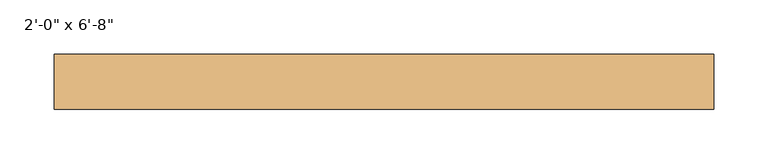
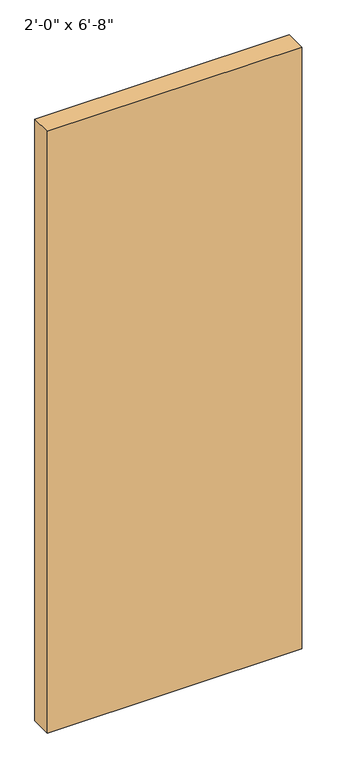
"""IFC4 building model written with IfcOpenShell, lengths in millimetres: door geometry."""

from ifc_helpers import new_model, si_unit, origin, origin_with_axes, place, context, project, spatial, polyline, outline, extrude, source, transform, mapped, element, save


def door_30803731(model_context):
    return source(origin(), model_context, "Body", "SweptSolid", [
        extrude(outline(polyline([(304.8, -6.1515625), (304.8, -57.15), (-304.8, -57.15), (-304.8, -6.1515625), (304.8, -6.1515625)])), origin_with_axes(), (0.0, 0.0, 1.0), 1524.0),
    ])


if __name__ == "__main__":
    model = new_model("IFC4")
    model_context = context("Model", 3, world=origin())
    ifc_project = project(units=[si_unit("LENGTHUNIT", "METRE", prefix="MILLI")], contexts=[model_context])
    site = spatial("IfcSite", under=ifc_project)
    building = spatial("IfcBuilding", under=site)
    placement = place(None, origin())
    door_shape = door_30803731(model_context)
    element("IfcDoor", 1, ObjectType="Planitar - Single Door_Flush Panel : 2'-0\" x 6'-8\"", at=placement, inside=building, context=model_context, shape_type="MappedRepresentation", body=[
        mapped(door_shape, transform((0.0, 0.0, 0.0), x_axis=(1.0, 0.0, 0.0), y_axis=(0.0, 1.0, 0.0), z_axis=(0.0, 0.0, 1.0))),
    ])
    save(model, "model.ifc")
